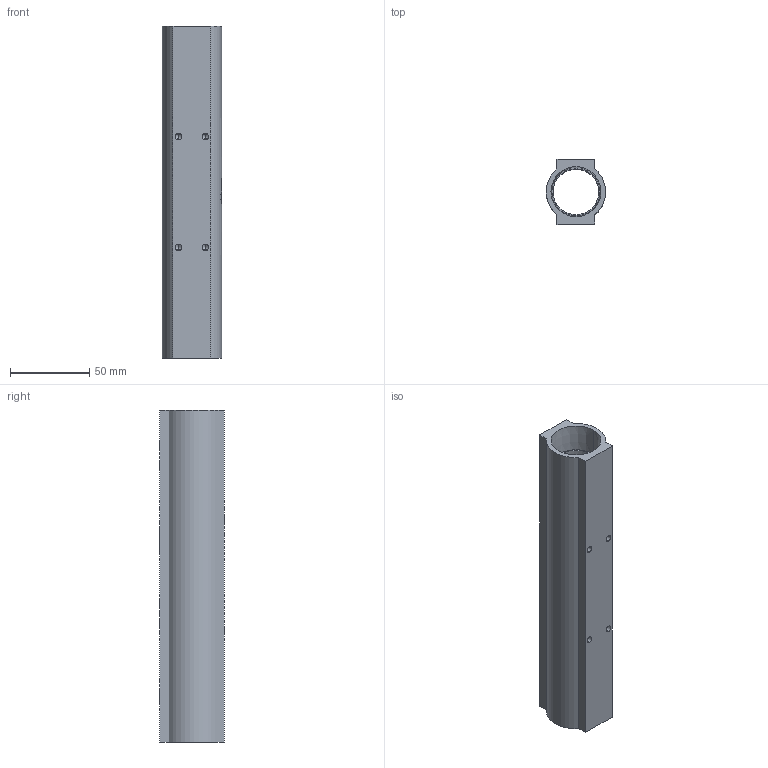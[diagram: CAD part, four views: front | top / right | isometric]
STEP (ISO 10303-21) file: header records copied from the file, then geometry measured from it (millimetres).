
FILE_DESCRIPTION (( 'STEP AP214' ), '1' );
FILE_NAME ('BWM4816B.STEP', '2022-03-15T04:36:08', ( '' ), ( '' ), 'SwSTEP 2.0', 'SolidWorks 2020', '' );
FILE_SCHEMA (( 'AUTOMOTIVE_DESIGN' ));
Length unit declared in the file: millimetre
Products named in the file (1): BWM4816B
Bounding box: 37.44 x 41 x 210 mm (x, y, z)
Volume: 112603.9 mm3; surface area: 49220.6 mm2
Topology: 1 solids, 1 shells, 215 faces, 571 edges, 374 vertices
Faces by surface type: plane 103, bspline 49, cylinder 43, cone 20
Entity records: 11610 total; most frequent: CARTESIAN_POINT 4834, ORIENTED_EDGE 1126, DIRECTION 761, EDGE_CURVE 563, VERTEX_POINT 374, LINE 287, VECTOR 287, EDGE_LOOP 249
